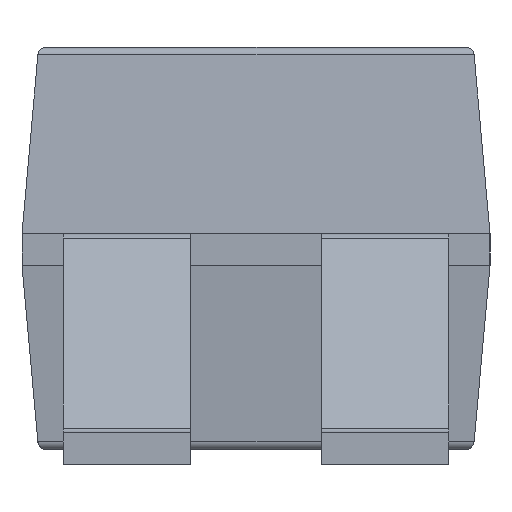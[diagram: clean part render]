
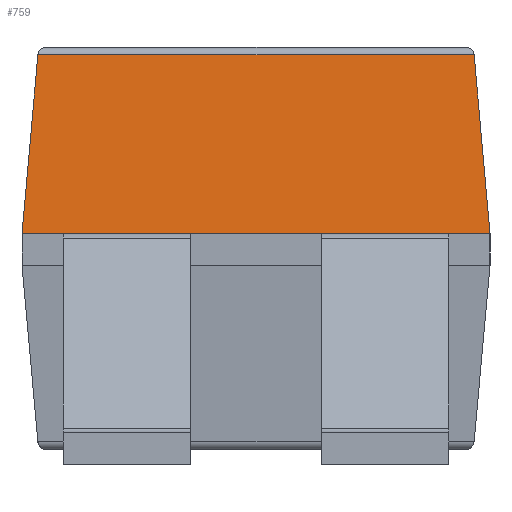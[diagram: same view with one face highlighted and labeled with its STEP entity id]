
A CAD part, left-side view. The second image highlights one B-rep face of the part: STEP entity #759.
In plain terms, the highlighted planar face has unit normal (-0.996, 0, 0.088).
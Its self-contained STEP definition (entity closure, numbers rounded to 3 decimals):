
#87 = PLANE('',#88);
#88 = AXIS2_PLACEMENT_3D('',#89,#90,#91);
#89 = CARTESIAN_POINT('',(-3.25,-2.3,0.15));
#90 = DIRECTION('',(1.,0.,0.));
#91 = DIRECTION('',(0.,0.,1.));
#350 = VERTEX_POINT('',#351);
#351 = CARTESIAN_POINT('',(-3.25,-2.3,2.271));
#374 = VERTEX_POINT('',#375);
#375 = CARTESIAN_POINT('',(-3.25,2.3,2.271));
#401 = EDGE_CURVE('',#350,#374,#402,.T.);
#402 = SURFACE_CURVE('',#403,(#407,#414),.PCURVE_S1.);
#403 = LINE('',#404,#405);
#404 = CARTESIAN_POINT('',(-3.25,-2.3,2.271));
#405 = VECTOR('',#406,1.);
#406 = DIRECTION('',(0.,1.,0.));
#407 = PCURVE('',#87,#408);
#408 = DEFINITIONAL_REPRESENTATION('',(#409),#413);
#409 = LINE('',#410,#411);
#410 = CARTESIAN_POINT('',(2.121,0.));
#411 = VECTOR('',#412,1.);
#412 = DIRECTION('',(0.,-1.));
#413 = ( GEOMETRIC_REPRESENTATION_CONTEXT(2) 
PARAMETRIC_REPRESENTATION_CONTEXT() REPRESENTATION_CONTEXT('2D SPACE',''
  ) );
#414 = PCURVE('',#415,#420);
#415 = PLANE('',#416);
#416 = AXIS2_PLACEMENT_3D('',#417,#418,#419);
#417 = CARTESIAN_POINT('',(-3.169,-2.3,3.185));
#418 = DIRECTION('',(0.996,0.,-0.088));
#419 = DIRECTION('',(0.,1.,0.));
#420 = DEFINITIONAL_REPRESENTATION('',(#421),#425);
#421 = LINE('',#422,#423);
#422 = CARTESIAN_POINT('',(0.,-0.918));
#423 = VECTOR('',#424,1.);
#424 = DIRECTION('',(1.,0.));
#425 = ( GEOMETRIC_REPRESENTATION_CONTEXT(2) 
PARAMETRIC_REPRESENTATION_CONTEXT() REPRESENTATION_CONTEXT('2D SPACE',''
  ) );
#612 = PLANE('',#613);
#613 = AXIS2_PLACEMENT_3D('',#614,#615,#616);
#614 = CARTESIAN_POINT('',(-3.25,-2.219,3.185));
#615 = DIRECTION('',(0.,0.996,-0.088));
#616 = DIRECTION('',(-1.,-0.,-0.));
#759 = ADVANCED_FACE('',(#760),#415,.F.);
#760 = FACE_BOUND('',#761,.F.);
#761 = EDGE_LOOP('',(#762,#785,#786,#814));
#762 = ORIENTED_EDGE('',*,*,#763,.F.);
#763 = EDGE_CURVE('',#350,#764,#766,.T.);
#764 = VERTEX_POINT('',#765);
#765 = CARTESIAN_POINT('',(-3.094,-2.144,
    4.027));
#766 = SURFACE_CURVE('',#767,(#771,#778),.PCURVE_S1.);
#767 = LINE('',#768,#769);
#768 = CARTESIAN_POINT('',(-3.169,-2.219,3.178
    ));
#769 = VECTOR('',#770,1.);
#770 = DIRECTION('',(0.088,0.088,
    0.992));
#771 = PCURVE('',#415,#772);
#772 = DEFINITIONAL_REPRESENTATION('',(#773),#777);
#773 = LINE('',#774,#775);
#774 = CARTESIAN_POINT('',(0.081,-0.007));
#775 = VECTOR('',#776,1.);
#776 = DIRECTION('',(0.088,0.996));
#777 = ( GEOMETRIC_REPRESENTATION_CONTEXT(2) 
PARAMETRIC_REPRESENTATION_CONTEXT() REPRESENTATION_CONTEXT('2D SPACE',''
  ) );
#778 = PCURVE('',#612,#779);
#779 = DEFINITIONAL_REPRESENTATION('',(#780),#784);
#780 = LINE('',#781,#782);
#781 = CARTESIAN_POINT('',(-0.081,-0.007));
#782 = VECTOR('',#783,1.);
#783 = DIRECTION('',(-0.088,0.996));
#784 = ( GEOMETRIC_REPRESENTATION_CONTEXT(2) 
PARAMETRIC_REPRESENTATION_CONTEXT() REPRESENTATION_CONTEXT('2D SPACE',''
  ) );
#785 = ORIENTED_EDGE('',*,*,#401,.T.);
#786 = ORIENTED_EDGE('',*,*,#787,.T.);
#787 = EDGE_CURVE('',#374,#788,#790,.T.);
#788 = VERTEX_POINT('',#789);
#789 = CARTESIAN_POINT('',(-3.094,2.144,4.027
    ));
#790 = SURFACE_CURVE('',#791,(#795,#802),.PCURVE_S1.);
#791 = LINE('',#792,#793);
#792 = CARTESIAN_POINT('',(-3.152,2.202,3.38
    ));
#793 = VECTOR('',#794,1.);
#794 = DIRECTION('',(0.088,-0.088,
    0.992));
#795 = PCURVE('',#415,#796);
#796 = DEFINITIONAL_REPRESENTATION('',(#797),#801);
#797 = LINE('',#798,#799);
#798 = CARTESIAN_POINT('',(4.502,0.195));
#799 = VECTOR('',#800,1.);
#800 = DIRECTION('',(-0.088,0.996));
#801 = ( GEOMETRIC_REPRESENTATION_CONTEXT(2) 
PARAMETRIC_REPRESENTATION_CONTEXT() REPRESENTATION_CONTEXT('2D SPACE',''
  ) );
#802 = PCURVE('',#803,#808);
#803 = PLANE('',#804);
#804 = AXIS2_PLACEMENT_3D('',#805,#806,#807);
#805 = CARTESIAN_POINT('',(-3.25,2.219,3.185));
#806 = DIRECTION('',(0.,0.996,0.088));
#807 = DIRECTION('',(-1.,0.,0.));
#808 = DEFINITIONAL_REPRESENTATION('',(#809),#813);
#809 = LINE('',#810,#811);
#810 = CARTESIAN_POINT('',(-0.098,0.195));
#811 = VECTOR('',#812,1.);
#812 = DIRECTION('',(-0.088,0.996));
#813 = ( GEOMETRIC_REPRESENTATION_CONTEXT(2) 
PARAMETRIC_REPRESENTATION_CONTEXT() REPRESENTATION_CONTEXT('2D SPACE',''
  ) );
#814 = ORIENTED_EDGE('',*,*,#815,.F.);
#815 = EDGE_CURVE('',#764,#788,#816,.T.);
#816 = SURFACE_CURVE('',#817,(#821,#828),.PCURVE_S1.);
#817 = LINE('',#818,#819);
#818 = CARTESIAN_POINT('',(-3.094,-2.138,4.027));
#819 = VECTOR('',#820,1.);
#820 = DIRECTION('',(0.,1.,0.));
#821 = PCURVE('',#415,#822);
#822 = DEFINITIONAL_REPRESENTATION('',(#823),#827);
#823 = LINE('',#824,#825);
#824 = CARTESIAN_POINT('',(0.163,0.845));
#825 = VECTOR('',#826,1.);
#826 = DIRECTION('',(1.,0.));
#827 = ( GEOMETRIC_REPRESENTATION_CONTEXT(2) 
PARAMETRIC_REPRESENTATION_CONTEXT() REPRESENTATION_CONTEXT('2D SPACE',''
  ) );
#828 = PCURVE('',#829,#834);
#829 = CYLINDRICAL_SURFACE('',#830,0.08);
#830 = AXIS2_PLACEMENT_3D('',#831,#832,#833);
#831 = CARTESIAN_POINT('',(-3.014,-2.138,4.02));
#832 = DIRECTION('',(0.,1.,0.));
#833 = DIRECTION('',(-0.996,0.,0.088));
#834 = DEFINITIONAL_REPRESENTATION('',(#835),#839);
#835 = LINE('',#836,#837);
#836 = CARTESIAN_POINT('',(0.,0.));
#837 = VECTOR('',#838,1.);
#838 = DIRECTION('',(0.,1.));
#839 = ( GEOMETRIC_REPRESENTATION_CONTEXT(2) 
PARAMETRIC_REPRESENTATION_CONTEXT() REPRESENTATION_CONTEXT('2D SPACE',''
  ) );
